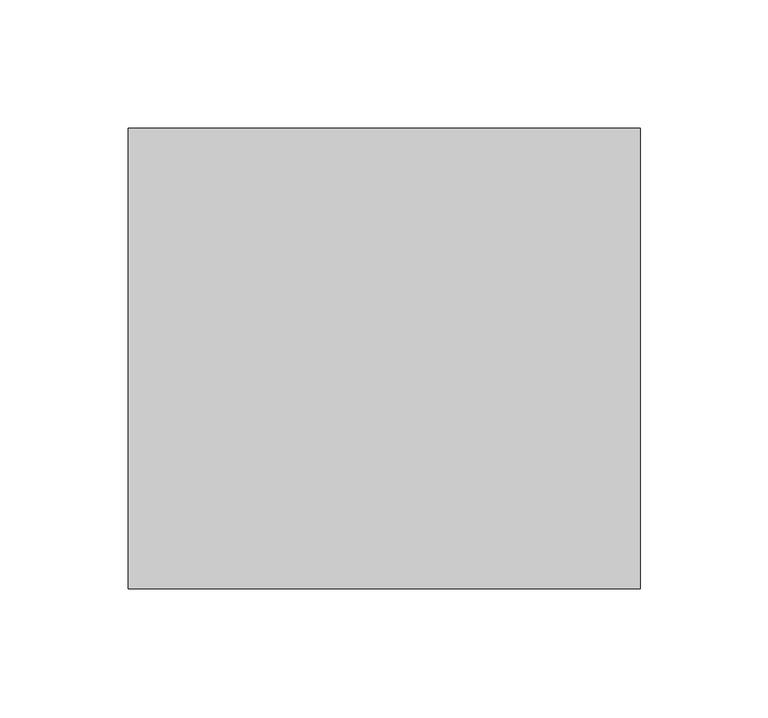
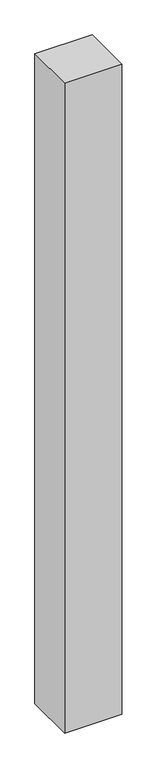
"""IFC4 building model written with IfcOpenShell, lengths in millimetres: proxy geometry."""

from ifc_helpers import new_model, si_unit, origin, origin_with_axes, place, context, project, spatial, polyline, outline, extrude, source, transform, mapped, element, save


def generic_models_a57bc191(model_context):
    return source(origin(), model_context, "Body", "SweptSolid", [
        extrude(outline(polyline([(14411.3277287, -90.0), (14411.3277287, 90.0), (14611.3277287, 90.0), (14611.3277287, -90.0), (14411.3277287, -90.0)])), origin_with_axes(), (0.0, 0.0, 1.0), 2396.741403),
    ])


if __name__ == "__main__":
    model = new_model("IFC4")
    model_context = context("Model", 3, world=origin())
    ifc_project = project(units=[si_unit("LENGTHUNIT", "METRE", prefix="MILLI")], contexts=[model_context])
    site = spatial("IfcSite", under=ifc_project)
    building = spatial("IfcBuilding", under=site)
    placement = place(None, origin())
    generic_models_shape = generic_models_a57bc191(model_context)
    element("IfcBuildingElementProxy", 1, Name="Generic Models", at=placement, inside=building, context=model_context, shape_type="MappedRepresentation", body=[
        mapped(generic_models_shape, transform((0.0, 0.0, 0.0), x_axis=(1.0, 0.0, 0.0), y_axis=(0.0, 1.0, 0.0), z_axis=(0.0, 0.0, 1.0))),
    ])
    save(model, "model.ifc")
